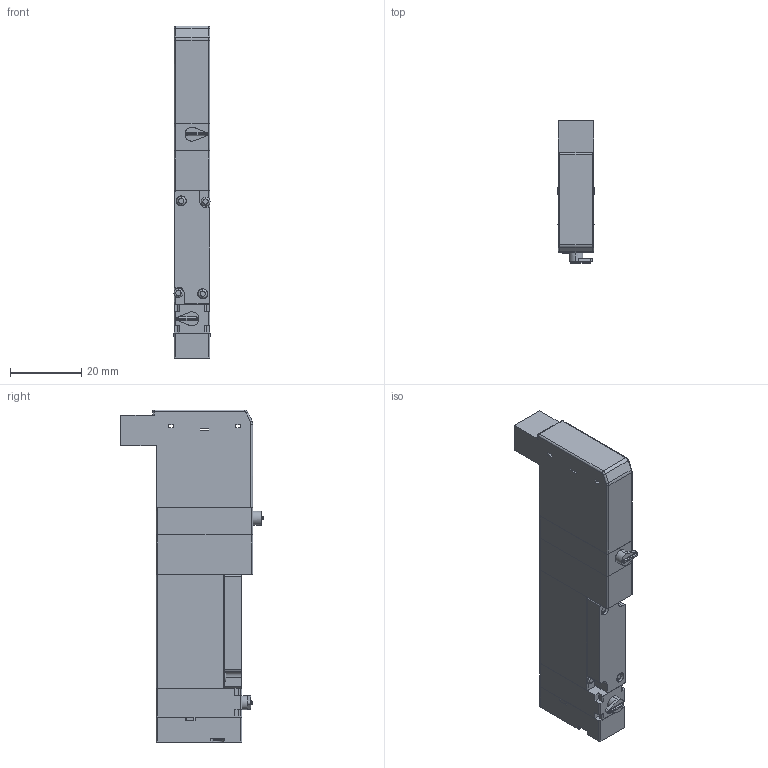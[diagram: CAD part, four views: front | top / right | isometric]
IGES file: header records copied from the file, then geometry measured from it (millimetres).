
Start section: ------------------------------------------------------------------------
Global section: file name: D:\ICADMX\tmp\trans3d_spg\CVICAD02.18204.F10T3-R-A1_8791.igs; native system: spGate; preprocessor: ver12.6.6; author: Unknown; organization: Unknown; date: 200901.142533; units: millimetre
Bounding box: 10.2 x 40 x 93 mm (x, y, z)
Volume: 24213.4 mm3; surface area: 11108.1 mm2
Topology: 7 solids, 7 shells, 248 faces, 618 edges, 390 vertices
Faces by surface type: bspline 248
